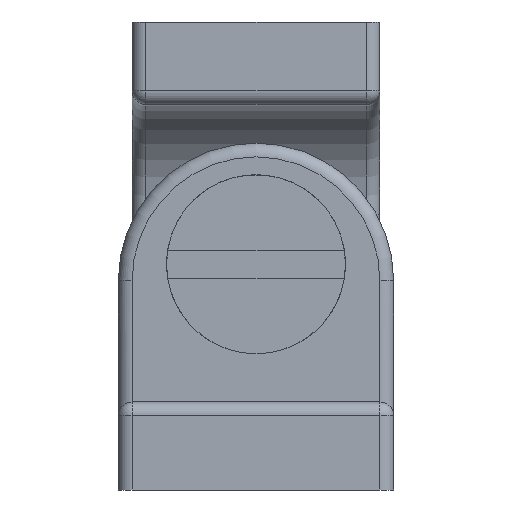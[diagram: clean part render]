
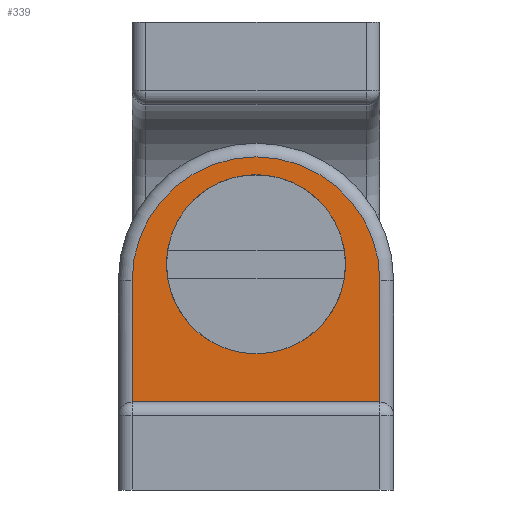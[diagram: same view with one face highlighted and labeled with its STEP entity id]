
A CAD part, left-side view. The second image highlights one B-rep face of the part: STEP entity #339.
In plain terms, the highlighted planar face has unit normal (-1, 0, 0).
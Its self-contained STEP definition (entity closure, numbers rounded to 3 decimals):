
#339=ADVANCED_FACE('',(#537,#538),#484,.F.);
#484=PLANE('',#2513);
#537=FACE_BOUND('',#655,.T.);
#538=FACE_BOUND('',#656,.T.);
#655=EDGE_LOOP('',(#1223));
#656=EDGE_LOOP('',(#1224,#1225,#1226,#1227));
#860=LINE('',#3648,#989);
#879=LINE('',#3723,#1008);
#880=LINE('',#3727,#1009);
#989=VECTOR('',#2852,1.);
#1008=VECTOR('',#2945,1.);
#1009=VECTOR('',#2950,1.);
#1223=ORIENTED_EDGE('',*,*,#2035,.T.);
#1224=ORIENTED_EDGE('',*,*,#2032,.F.);
#1225=ORIENTED_EDGE('',*,*,#2036,.F.);
#1226=ORIENTED_EDGE('',*,*,#1995,.T.);
#1227=ORIENTED_EDGE('',*,*,#2034,.F.);
#1778=VERTEX_POINT('',#3637);
#1781=VERTEX_POINT('',#3649);
#1798=VERTEX_POINT('',#3718);
#1799=VERTEX_POINT('',#3720);
#1800=VERTEX_POINT('',#3726);
#1995=EDGE_CURVE('',#1781,#1778,#860,.T.);
#2032=EDGE_CURVE('',#1798,#1799,#2314,.T.);
#2034=EDGE_CURVE('',#1799,#1778,#879,.T.);
#2035=EDGE_CURVE('',#1800,#1800,#2316,.T.);
#2036=EDGE_CURVE('',#1781,#1798,#880,.T.);
#2314=CIRCLE('',#2508,4.5);
#2316=CIRCLE('',#2512,3.25);
#2508=AXIS2_PLACEMENT_3D('',#3719,#2939,#2940);
#2512=AXIS2_PLACEMENT_3D('',#3725,#2948,#2949);
#2513=AXIS2_PLACEMENT_3D('',#3728,#2951,#2952);
#2852=DIRECTION('',(0.,-1.,0.));
#2939=DIRECTION('',(1.,0.,0.));
#2940=DIRECTION('',(0.,1.,0.));
#2945=DIRECTION('',(0.,0.,-1.));
#2948=DIRECTION('',(1.,0.,0.));
#2949=DIRECTION('',(0.,0.,-1.));
#2950=DIRECTION('',(0.,0.,1.));
#2951=DIRECTION('',(1.,0.,0.));
#2952=DIRECTION('',(0.,0.,-1.));
#3637=CARTESIAN_POINT('',(-15.1,-4.5,-5.));
#3648=CARTESIAN_POINT('',(-15.1,4.5,-5.));
#3649=CARTESIAN_POINT('',(-15.1,4.5,-5.));
#3718=CARTESIAN_POINT('',(-15.1,4.5,-0.6));
#3719=CARTESIAN_POINT('',(-15.1,0.,-0.6));
#3720=CARTESIAN_POINT('',(-15.1,-4.5,-0.6));
#3723=CARTESIAN_POINT('',(-15.1,-4.5,-0.6));
#3725=CARTESIAN_POINT('',(-15.1,0.,0.));
#3726=CARTESIAN_POINT('',(-15.1,0.,-3.25));
#3727=CARTESIAN_POINT('',(-15.1,4.5,-5.));
#3728=CARTESIAN_POINT('',(-15.1,6.565,-5.));
